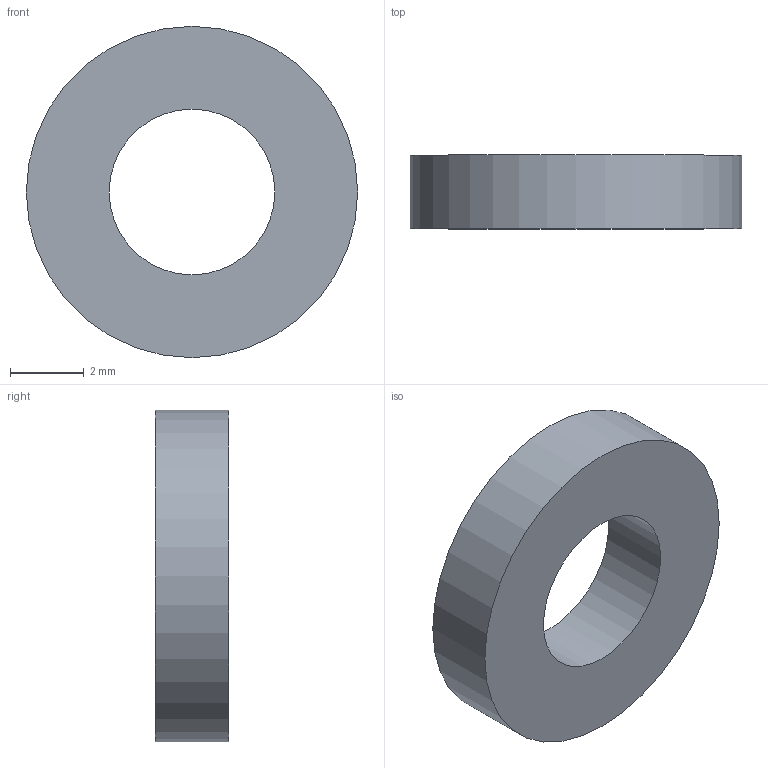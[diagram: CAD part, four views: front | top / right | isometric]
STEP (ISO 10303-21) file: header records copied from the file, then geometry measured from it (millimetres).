
FILE_DESCRIPTION(('Open CASCADE Model'),'2;1');
FILE_NAME('Open CASCADE Shape Model','2026-10-13T11:47:37',('Author'),( 'Open CASCADE'),'Open CASCADE STEP processor 7.8','Open CASCADE 7.8' ,'Unknown');
FILE_SCHEMA(('AUTOMOTIVE_DESIGN { 1 0 10303 214 1 1 1 1 }'));
Length unit declared in the file: millimetre
Products named in the file (1): Open CASCADE STEP translator 7.8 48
Bounding box: 9 x 2 x 9 mm (x, y, z)
Volume: 95.4 mm3; surface area: 180.2 mm2
Topology: 1 solids, 1 shells, 4 faces, 6 edges, 4 vertices
Faces by surface type: cylinder 2, plane 2
Full cylindrical faces by diameter (mm): 4.5 x1, 9 x1
Entity records: 186 total; most frequent: DIRECTION 32, CARTESIAN_POINT 27, ORIENTED_EDGE 12, PCURVE 12, DEFINITIONAL_REPRESENTATION 12, LINE 10, VECTOR 10, AXIS2_PLACEMENT_3D 9
